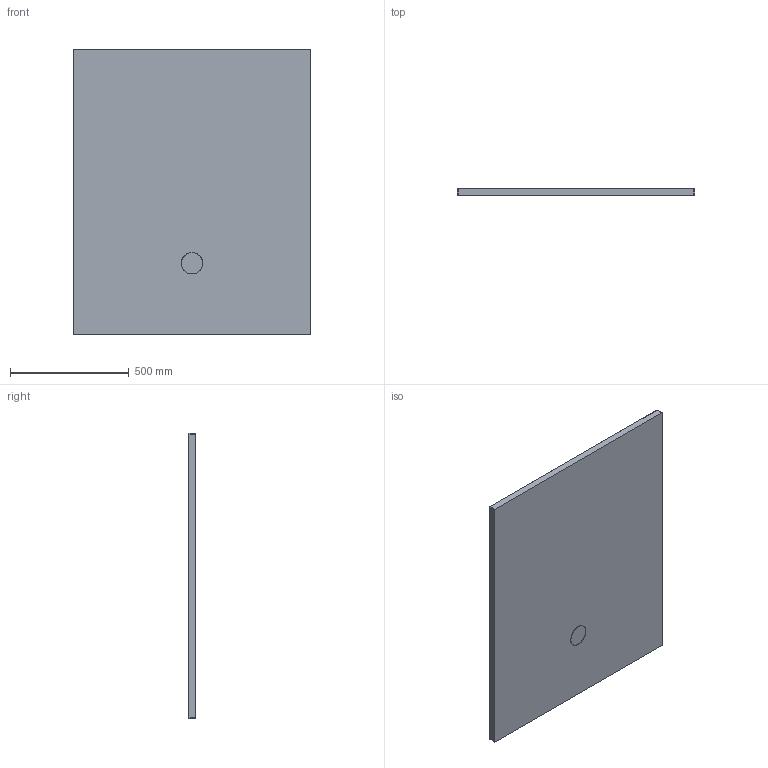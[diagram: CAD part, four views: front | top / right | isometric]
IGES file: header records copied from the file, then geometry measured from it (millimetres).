
Start section: SolidWorks IGES file using analytic representation for surfaces
Global section: file name: D:\Users\M.Szymanski\Desktop\Brodziki\Nias\B_M_NIAS_120x100x1,5.IGS; native system: SolidWorks 2011; preprocessor: SolidWorks 2011; author: M.Szymanski; date: 180222.142030; units: millimetre
Bounding box: 1000 x 30 x 1200 mm (x, y, z)
Surface area: 2550029.9 mm2 (no closed solid volume)
Topology: 0 solids, 0 shells, 45 faces, 667 edges, 666 vertices
Faces by surface type: bspline 25, revolution 20
